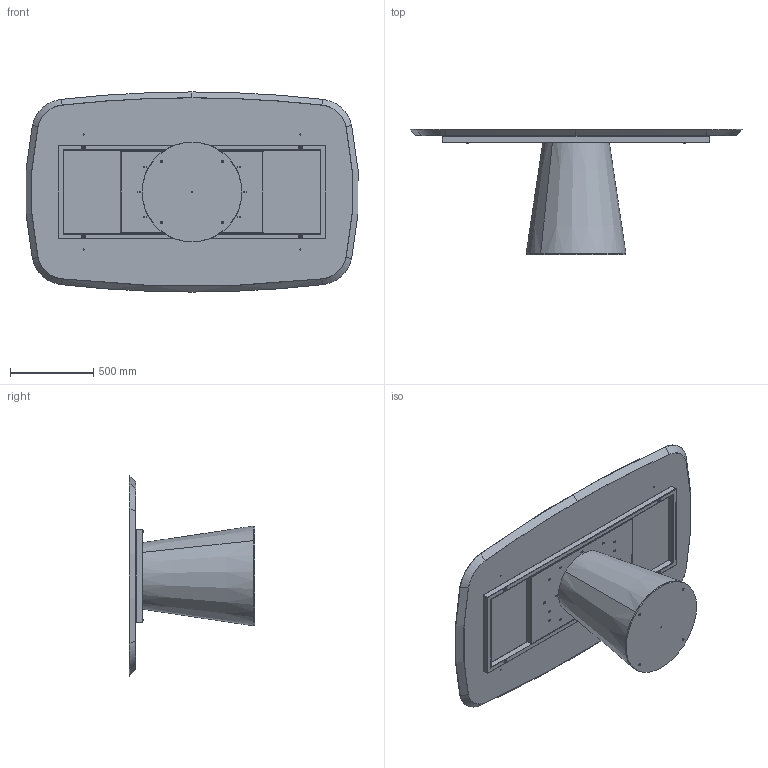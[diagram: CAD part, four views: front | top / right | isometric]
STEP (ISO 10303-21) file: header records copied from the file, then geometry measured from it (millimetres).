
FILE_DESCRIPTION (( 'STEP AP203' ), '1' );
FILE_NAME ('TO41W_Teo_200x120_Wood Shaped.STEP', '2024-08-02T09:30:37', ( '' ), ( '' ), 'SwSTEP 2.0', 'SolidWorks 2022', '' );
FILE_SCHEMA (( 'CONFIG_CONTROL_DESIGN' ));
Length unit declared in the file: millimetre
Products named in the file (12): rondella M8_8X24; TEO000000PIA-00-TEO PIASTRA DI BASE IN METALLO GREZZO; W4XCMXX-00-Piani Sagomati legno_ 2000 x 1200; TTAV01-05-TELAIO UNIVERSALE X TAVOLI 180 240cm; M8xXXmm_M8x55mm; M8xXXmm_hex_M8X20mm; TTAV01_02-05-VASSOIO IRRIGIDIMENTO TELAIO UNIVERSALE; BASE TED LEGNO CON ZAVORRA; COLLO TELAIO UNIVERSALE TTAV01 CON FERRAMENTA_MTG TOP LEGNO-MARMO-KING; TO41W_Teo_200x120_Wood Shaped; TEO0000-00-TEO BASE LEGNO IMPIALLACCIATA LEVIGATO PRONTA X VERNICE; TTAV01_01-05-TELAIO UNIVERSALE X TAVOLI 180 240cm
Assembly tree (20 placements, depth 4):
  TO41W_Teo_200x120_Wood Shaped
    BASE TED LEGNO CON ZAVORRA
      TEO000000PIA-00-TEO PIASTRA DI BASE IN METALLO GREZZO
      TEO0000-00-TEO BASE LEGNO IMPIALLACCIATA LEVIGATO PRONTA X VERNICE
      M8xXXmm_hex_M8X20mm  x4
    COLLO TELAIO UNIVERSALE TTAV01 CON FERRAMENTA_MTG TOP LEGNO-MARMO-KING
      TTAV01-05-TELAIO UNIVERSALE X TAVOLI 180 240cm
        TTAV01_02-05-VASSOIO IRRIGIDIMENTO TELAIO UNIVERSALE
        TTAV01_01-05-TELAIO UNIVERSALE X TAVOLI 180 240cm
      rondella M8_8X24  x4
      M8xXXmm_M8x55mm  x4
    W4XCMXX-00-Piani Sagomati legno_ 2000 x 1200
Bounding box: 1990.53 x 751.19 x 1200 mm (x, y, z)
Volume: 113076664.9 mm3; surface area: 9966662.9 mm2
Topology: 17 solids, 17 shells, 703 faces, 1658 edges, 963 vertices
Faces by surface type: plane 282, cylinder 231, cone 117, torus 65, sphere 8
Entity records: 15231 total; most frequent: DIRECTION 2521, CARTESIAN_POINT 2381, ORIENTED_EDGE 2228, EDGE_CURVE 1114, AXIS2_PLACEMENT_3D 948, VERTEX_POINT 690, VECTOR 625, LINE 625
